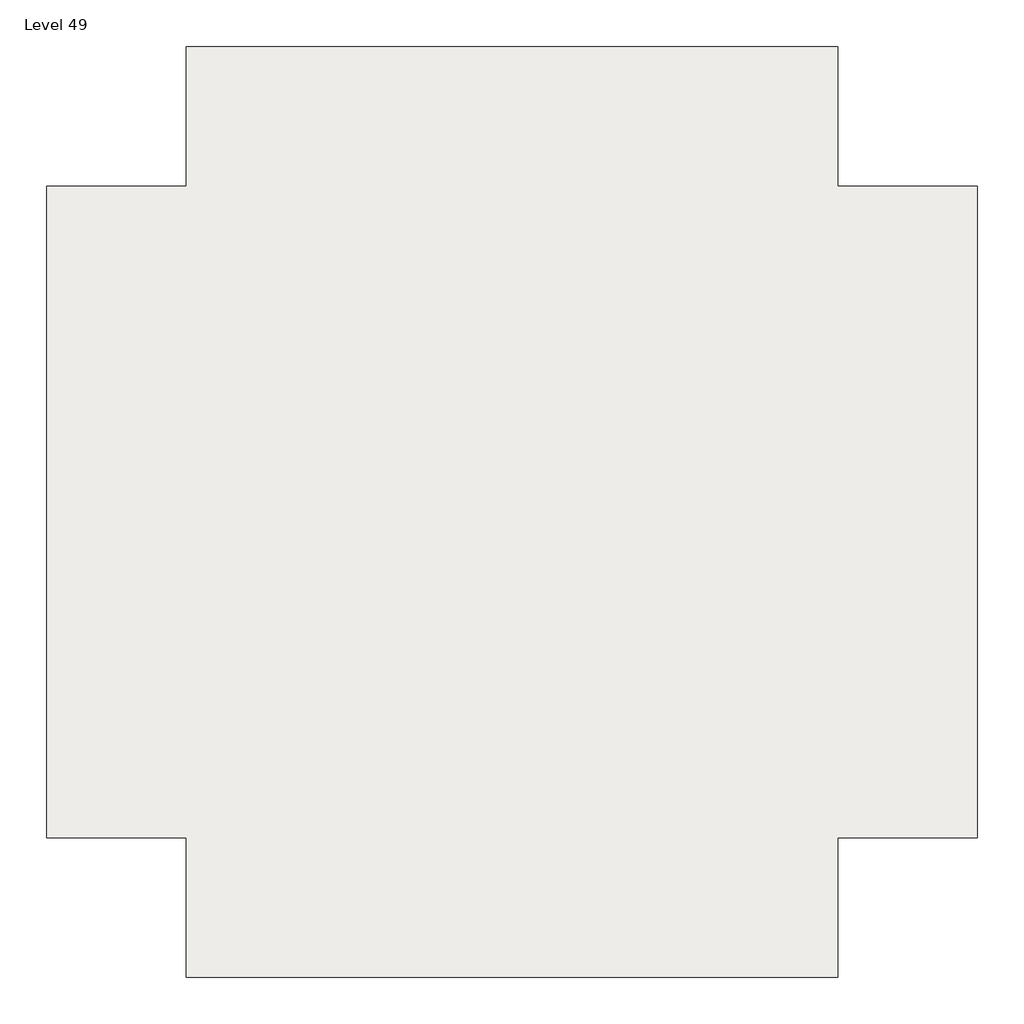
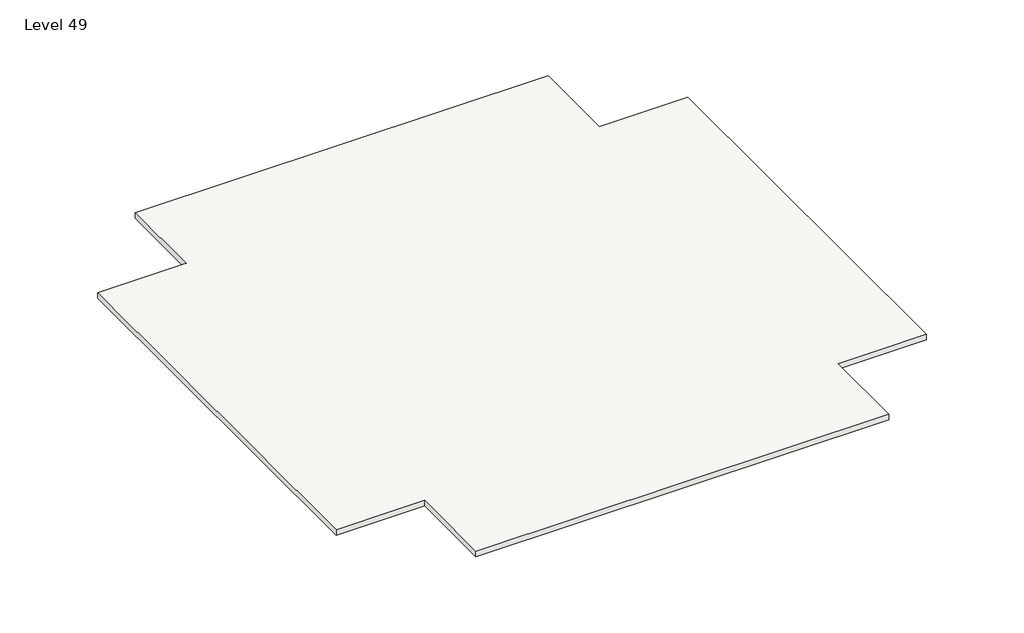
# One storey: 3 slabs.
"""IFC4 building model written with IfcOpenShell, lengths in millimetres."""

import ifcopenshell
import ifcopenshell.guid

model = None  # the IFC model being written
_history = None  # IfcOwnerHistory: only IFC2X3 demands one
_inside = {}  # id of a spatial element -> (the spatial element, [elements in it])
_under = {}  # id of a project, library or spatial element -> (it, [spatial elements below it])
_declared = {}  # id of a project -> (the project, [libraries it declares])
_typed = {}  # id of a type object -> (the type object, [elements of that type])
_made_of = {}  # id of a material, layer set ... -> (it, [elements and type objects made of it])


def new_model(schema):
    """Start an empty IFC model of exactly this schema.

    Asked for "IFC4X3", IfcOpenShell would pick the latest addendum, in which some entities
    have other attributes; the version numbers below select the first issue.
    IFC2X3 requires an IfcOwnerHistory on every rooted entity: one is made here for all.
    """
    global model, _history
    if schema == "IFC4X3":
        model = ifcopenshell.file(schema_version=(4, 3, 0, 0))
    else:
        model = ifcopenshell.file(schema=schema)
    _inside.clear()
    _under.clear()
    _declared.clear()
    _typed.clear()
    _made_of.clear()
    _history = None
    if model.schema == "IFC2X3":
        org = make("IfcOrganization", Name="unknown")
        user = make(
            "IfcPersonAndOrganization",
            ThePerson=make("IfcPerson", FamilyName="unknown"),
            TheOrganization=org,
        )
        app = make(
            "IfcApplication",
            ApplicationDeveloper=org,
            Version="unknown",
            ApplicationFullName="unknown",
            ApplicationIdentifier="unknown",
        )
        _history = make(
            "IfcOwnerHistory",
            OwningUser=user,
            OwningApplication=app,
            ChangeAction="ADDED",
            CreationDate=0,
        )
    return model


def make(cls, **values):
    """One entity of the class cls with the attributes given. An attribute that is None is left unset."""
    return model.create_entity(
        cls, **{name: value for name, value in values.items() if value is not None}
    )


def rooted(cls, **values):
    """An entity with a GlobalId (a new one), such as an element, a storey or a relation."""
    return make(cls, GlobalId=ifcopenshell.guid.new(), OwnerHistory=_history, **values)


def si_unit(unit_type, name, prefix=None):
    """IfcSIUnit, for example si_unit("LENGTHUNIT", "METRE", prefix="MILLI")."""
    return make("IfcSIUnit", UnitType=unit_type, Prefix=prefix, Name=name)


def assignment(units):
    """IfcUnitAssignment: the units of a project."""
    return None if units is None else make("IfcUnitAssignment", Units=units)


def point(xyz):
    """IfcCartesianPoint."""
    return None if xyz is None else make("IfcCartesianPoint", Coordinates=xyz)


def direction(xyz):
    """IfcDirection."""
    return None if xyz is None else make("IfcDirection", DirectionRatios=xyz)


def frame(location, z_axis=None, x_axis=None):
    """IfcAxis2Placement3D, a coordinate frame: its origin and axes. An axis left out is left unset."""
    return make(
        "IfcAxis2Placement3D",
        Location=point(location),
        Axis=direction(z_axis),
        RefDirection=direction(x_axis),
    )


def origin():
    """The frame at (0, 0, 0) with its axes left unset."""
    return frame((0.0, 0.0, 0.0))


def place(relative_to, where):
    """IfcLocalPlacement: puts the frame where relative to a parent placement (None: the world)."""
    return make(
        "IfcLocalPlacement", PlacementRelTo=relative_to, RelativePlacement=where
    )


def context(
    kind, dimensions, precision=None, world=None, true_north=None, identifier=None
):
    """IfcGeometricRepresentationContext, for example the 3D "Model" context."""
    return make(
        "IfcGeometricRepresentationContext",
        ContextIdentifier=identifier,
        ContextType=kind,
        CoordinateSpaceDimension=dimensions,
        Precision=precision,
        WorldCoordinateSystem=world,
        TrueNorth=true_north,
    )


def project(units=None, contexts=None):
    """IfcProject with its units and contexts."""
    return rooted(
        "IfcProject",
        Name="project",
        RepresentationContexts=contexts,
        UnitsInContext=assignment(units),
    )


def spatial(cls, under=None, at=None, **own):
    """A site, building, storey or space (cls), placed at a placement, below another one or the project."""
    s = rooted(cls, ObjectPlacement=at, **own)
    if under is not None:
        _under.setdefault(under.id(), (under, []))[1].append(s)
    return s


def polyline(points):
    """IfcPolyline through the points."""
    return make("IfcPolyline", Points=[point(p) for p in points])


def outline(outer, holes=None, kind="AREA"):
    """IfcArbitraryClosedProfileDef: a profile drawn as a closed curve; with holes, ...WithVoids."""
    if holes is None:
        return make("IfcArbitraryClosedProfileDef", ProfileType=kind, OuterCurve=outer)
    return make(
        "IfcArbitraryProfileDefWithVoids",
        ProfileType=kind,
        OuterCurve=outer,
        InnerCurves=holes,
    )


def extrude(swept, where, along, depth):
    """IfcExtrudedAreaSolid: the profile swept, set in the frame where, extruded along a direction by depth."""
    return make(
        "IfcExtrudedAreaSolid",
        SweptArea=swept,
        Position=where,
        ExtrudedDirection=direction(along),
        Depth=depth,
    )


def shape(context_of_items, identifier, shape_type, items):
    """IfcShapeRepresentation: the items that make up one representation, for example the "Body"."""
    return make(
        "IfcShapeRepresentation",
        ContextOfItems=context_of_items,
        RepresentationIdentifier=identifier,
        RepresentationType=shape_type,
        Items=items,
    )


def made_of(thing, what):
    """Note that an element or type object is made of a material, layer set ...; save() writes the relation."""
    if what is not None:
        _made_of.setdefault(what.id(), (what, []))[1].append(thing)
    return thing


def element(
    cls,
    number,
    at=None,
    inside=None,
    cuts=None,
    type_object=None,
    material=None,
    context=None,
    identifier="Body",
    shape_type=None,
    held_by="IfcProductDefinitionShape",
    body=None,
    shapes=None,
    **own,
):
    """One element of the class cls, such as IfcWall. Its Tag is "e" and its number.

    at: its placement. inside: the storey or other place that contains it. cuts: it is an
    opening in that element (IfcRelVoidsElement). A single representation is given by context,
    identifier, shape_type and body (its items); several are given by shapes. held_by: the class
    of the entity that holds the representations. save() writes the other relations.
    """
    e = rooted(cls, Tag="e%d" % number, ObjectPlacement=at, **own)
    if body is not None:
        shapes = [shape(context, identifier, shape_type, body)]
    if shapes is not None:
        e.Representation = make(held_by, Representations=shapes)
    if inside is not None:
        _inside.setdefault(inside.id(), (inside, []))[1].append(e)
    if cuts is not None:
        rooted(
            "IfcRelVoidsElement", RelatingBuildingElement=cuts, RelatedOpeningElement=e
        )
    if type_object is not None:
        _typed.setdefault(type_object.id(), (type_object, []))[1].append(e)
    return made_of(e, material)


def aggregate(whole, parts):
    """IfcRelAggregates: a whole, such as a stair, and the parts it consists of."""
    return rooted("IfcRelAggregates", RelatingObject=whole, RelatedObjects=parts)


def save(model, path):
    """Write the relations noted so far, then the file.

    IfcRelAggregates (storeys below a building ...), IfcRelContainedInSpatialStructure (elements
    in a storey), IfcRelDefinesByType, IfcRelAssociatesMaterial and IfcRelDeclares: one each for
    every whole, place, type object, material and project.
    """
    for whole, parts in _under.values():
        aggregate(whole, parts)
    for where, things in _inside.values():
        rooted(
            "IfcRelContainedInSpatialStructure",
            RelatedElements=things,
            RelatingStructure=where,
        )
    for kind, things in _typed.values():
        rooted("IfcRelDefinesByType", RelatedObjects=things, RelatingType=kind)
    for what, things in _made_of.values():
        rooted("IfcRelAssociatesMaterial", RelatedObjects=things, RelatingMaterial=what)
    for by, libraries in _declared.values():
        rooted("IfcRelDeclares", RelatingContext=by, RelatedDefinitions=libraries)
    model.write(path)


model = new_model("IFC4")

# Units and contexts
model_context = context("Model", 3, world=origin())
ifc_project = project(units=[si_unit("LENGTHUNIT", "METRE", prefix="MILLI")], contexts=[model_context])

# Site, building, storey
site = spatial("IfcSite", under=ifc_project)
building = spatial("IfcBuilding", under=site)
storey = spatial("IfcBuildingStorey", under=building, Name="Level 49", Elevation=146304.0)

# Slabs
placement = place(None, origin())
element("IfcSlab", 1, ObjectType="Generic - 12\"", at=placement, inside=storey, context=model_context, shape_type="SweptSolid", body=[
    extrude(outline(polyline([(-7150.3629456, 4479.6634547), (-7150.3629456, 9051.6634547), (14185.6370544, 9051.6634547), (14185.6370544, 4479.6634547), (18757.6370544, 4479.6634547), (18757.6370544, -16856.3365453), (14185.6370544, -16856.3365453), (14185.6370544, -21428.3365453), (-7150.3629456, -21428.3365453), (-7150.3629456, -16856.3365453), (-11722.3629456, -16856.3365453), (-11722.3629456, 4479.6634547), (-7150.3629456, 4479.6634547)])), frame((0.0, 0.0, 145999.2), z_axis=(0.0, 0.0, 1.0), x_axis=(1.0, 0.0, 0.0)), (0.0, 0.0, 1.0), 304.8),
])
element("IfcSlab", 2, ObjectType="Generic - 12\"", at=placement, inside=storey, context=model_context, shape_type="SweptSolid", body=[
    extrude(outline(polyline([(-7150.3629456, 4479.6634547), (-7150.3629456, 9051.6634547), (14185.6370544, 9051.6634547), (14185.6370544, 4479.6634547), (18757.6370544, 4479.6634547), (18757.6370544, -16856.3365453), (14185.6370544, -16856.3365453), (14185.6370544, -21428.3365453), (-7150.3629456, -21428.3365453), (-7150.3629456, -16856.3365453), (-11722.3629456, -16856.3365453), (-11722.3629456, 4479.6634547), (-7150.3629456, 4479.6634547)])), frame((0.0, 0.0, 145999.2), z_axis=(0.0, 0.0, 1.0), x_axis=(1.0, 0.0, 0.0)), (0.0, 0.0, 1.0), 304.8),
])
element("IfcSlab", 3, ObjectType="Generic - 12\"", at=placement, inside=storey, context=model_context, shape_type="SweptSolid", body=[
    extrude(outline(polyline([(-7150.3629456, 4479.6634547), (-7150.3629456, 9051.6634547), (14185.6370544, 9051.6634547), (14185.6370544, 4479.6634547), (18757.6370544, 4479.6634547), (18757.6370544, -16856.3365453), (14185.6370544, -16856.3365453), (14185.6370544, -21428.3365453), (-7150.3629456, -21428.3365453), (-7150.3629456, -16856.3365453), (-11722.3629456, -16856.3365453), (-11722.3629456, 4479.6634547), (-7150.3629456, 4479.6634547)])), frame((0.0, 0.0, 145999.2), z_axis=(0.0, 0.0, 1.0), x_axis=(1.0, 0.0, 0.0)), (0.0, 0.0, 1.0), 304.8),
])

save(model, "model.ifc")
